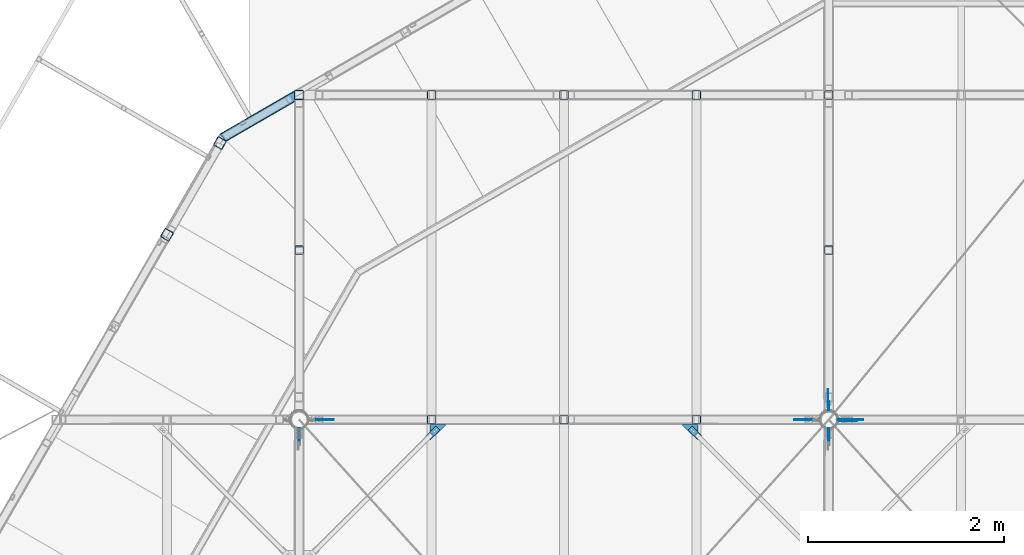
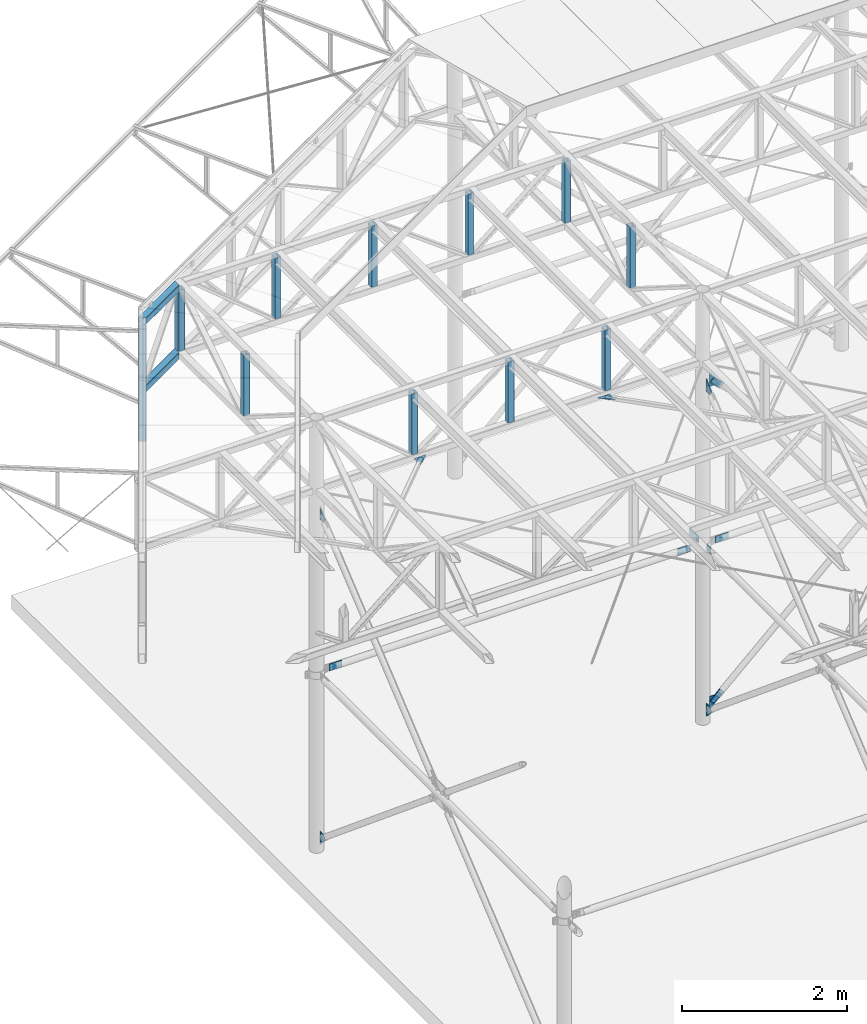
# One storey, part 87 of 132: 38 discrete accessories, 18 elements without a shape of their own.
"""IFC2X3 building model written with IfcOpenShell, lengths in millimetres."""

from ifc_helpers import new_model, si_unit, frame, origin_with_axes, origin_2d_with_axis, place, context, subcontext, project, spatial, polyline, rectangle, hollow_rectangle, outline, extrude, boolean, clip, halfspace, material, type_object, element, aggregate, save


model = new_model("IFC2X3")

# Units and contexts
model_context = context("Model", 3, precision=1e-05, world=origin_with_axes())
body_context = subcontext(model_context, "Body", "Model", "MODEL_VIEW")
ifc_project = project(units=[si_unit("LENGTHUNIT", "METRE", prefix="MILLI"), si_unit("AREAUNIT", "SQUARE_METRE"), si_unit("VOLUMEUNIT", "CUBIC_METRE"), si_unit("MASSUNIT", "GRAM", prefix="KILO"), si_unit("TIMEUNIT", "SECOND"), si_unit("PLANEANGLEUNIT", "RADIAN"), si_unit("SOLIDANGLEUNIT", "STERADIAN"), si_unit("THERMODYNAMICTEMPERATUREUNIT", "DEGREE_CELSIUS"), si_unit("LUMINOUSINTENSITYUNIT", "LUMEN")], contexts=[model_context])

# Site, building, storey
site_placement = place(None, origin_with_axes())
site = spatial("IfcSite", under=ifc_project, at=site_placement, Name="Budowa", CompositionType="ELEMENT")
building_placement = place(site_placement, origin_with_axes())
building = spatial("IfcBuilding", under=site, at=building_placement, Name="Undefined", CompositionType="ELEMENT")
storey_placement = place(building_placement, origin_with_axes())
storey = spatial("IfcBuildingStorey", under=building, at=storey_placement, Name="Undefined", CompositionType="ELEMENT", Elevation=0.0)

# Assembly, discrete accessories
assembly_1_placement = place(storey_placement, origin_with_axes())
assembly_1 = element("IfcElementAssembly", 1, at=assembly_1_placement, inside=storey, Name="Steel Assembly", AssemblyPlace="NOTDEFINED", PredefinedType="RIGID_FRAME")
ifc_material = material(Name="STEEL/S235")
discrete_accessory_type_1 = type_object("IfcDiscreteAccessoryType", Name="BLACHA")
discrete_accessory_1_placement = place(assembly_1_placement, frame((9513.8999996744, 17999.9990001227, 12610.0003356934), z_axis=(0.0, -1.0, 0.0), x_axis=(0.0, 0.0, -1.0)))
discrete_accessory_1 = element("IfcDiscreteAccessory", 2, at=discrete_accessory_1_placement, type_object=discrete_accessory_type_1, material=ifc_material, Name="BLACHA", ObjectType="BL8*126", context=body_context, shape_type="SweptSolid", body=[
    extrude(outline(polyline([(0.0, 0.0), (203.000061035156, 0.0), (203.000061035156, 73.001091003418), (144.99951171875, 126.000587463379), (0.0, 10.0), (0.0, 0.0)])), frame((0.0, 0.0, -4.0), z_axis=(0.0, 0.0, 1.0), x_axis=(1.0, 0.0, 0.0)), (0.0, 0.0, 1.0), 8.0),
])
discrete_accessory_2_placement = place(assembly_1_placement, frame((9513.89999968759, 17999.9990001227, 7825.00048828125), z_axis=(0.0, -1.0, 0.0), x_axis=(0.0, 0.0, -1.0)))
discrete_accessory_2 = element("IfcDiscreteAccessory", 3, at=discrete_accessory_2_placement, type_object=discrete_accessory_type_1, material=ifc_material, Name="BLACHA", ObjectType="BL8*126", context=body_context, shape_type="SweptSolid", body=[
    extrude(outline(polyline([(0.0, 0.0), (203.000061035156, 0.0), (203.000061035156, 10.0), (57.9996109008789, 126.000587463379), (-9.02218744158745e-10, 73.001091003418), (0.0, 0.0)])), frame((0.0, 0.0, -4.0), z_axis=(0.0, 0.0, 1.0), x_axis=(1.0, 0.0, 0.0)), (0.0, 0.0, 1.0), 8.0),
])

# Assembly, discrete accessory
assembly_2_placement = place(storey_placement, origin_with_axes())
assembly_2 = element("IfcElementAssembly", 4, at=assembly_2_placement, inside=storey, Name="Steel Assembly", AssemblyPlace="NOTDEFINED", PredefinedType="RIGID_FRAME")
discrete_accessory_3_placement = place(assembly_2_placement, frame((9547.31003908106, 17989.9999976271, 7734.82673924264), z_axis=(0.67855182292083, 0.0, -0.734552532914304), x_axis=(0.734552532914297, 0.0, 0.678551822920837)))
discrete_accessory_3 = element("IfcDiscreteAccessory", 5, at=discrete_accessory_3_placement, type_object=discrete_accessory_type_1, material=ifc_material, Name="BLACHA", ObjectType="BL8*86", context=body_context, shape_type="CSG", body=[
    boolean("DIFFERENCE", boolean("DIFFERENCE", extrude(rectangle(XDim=8.0, YDim=86.0, at=origin_2d_with_axis()), frame((190.000000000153, -3.63797880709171e-12, 3.30513394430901e-13), z_axis=(-1.0, 0.0, 0.0), x_axis=(0.0, -1.0, 0.0)), (0.0, 0.0, 1.0), 190.0), extrude(outline(polyline([(0.0, 0.0), (20.0000000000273, -3.63797880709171e-12), (5.45696821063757e-12, 20.0000000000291), (0.0, 0.0)])), frame((-1.81898940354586e-12, 6.49999757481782, 42.9999999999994), z_axis=(0.0, -1.0, 0.0), x_axis=(0.0, 0.0, -1.0)), (0.0, 0.0, 1.0), 13.0)), extrude(outline(polyline([(0.0, 0.0), (20.0000000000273, -3.63797880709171e-12), (5.45696821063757e-12, 20.0000000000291), (0.0, 0.0)])), frame((-1.81898940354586e-12, -6.50000242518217, -42.9999999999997), z_axis=(0.0, 1.0, 0.0), x_axis=(0.0, 0.0, 1.0)), (0.0, 0.0, 1.0), 13.0)),
])
aggregate(assembly_2, [discrete_accessory_3])

assembly_3_placement = place(storey_placement, origin_with_axes())
assembly_3 = element("IfcElementAssembly", 6, at=assembly_3_placement, inside=storey, Name="Steel Assembly", AssemblyPlace="NOTDEFINED", PredefinedType="RIGID_FRAME")
discrete_accessory_4_placement = place(assembly_3_placement, frame((9547.31003885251, 17989.9999975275, 12497.1740173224), z_axis=(-0.67855182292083, 0.0, -0.734552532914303), x_axis=(0.734552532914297, 0.0, -0.678551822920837)))
discrete_accessory_4 = element("IfcDiscreteAccessory", 7, at=discrete_accessory_4_placement, type_object=discrete_accessory_type_1, material=ifc_material, Name="BLACHA", ObjectType="BL8*86", context=body_context, shape_type="CSG", body=[
    boolean("DIFFERENCE", boolean("DIFFERENCE", extrude(rectangle(XDim=8.0, YDim=86.0, at=origin_2d_with_axis()), frame((190.000000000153, -3.63797880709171e-12, 3.30513394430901e-13), z_axis=(-1.0, 0.0, 0.0), x_axis=(0.0, -1.0, 0.0)), (0.0, 0.0, 1.0), 190.0), extrude(outline(polyline([(0.0, 0.0), (20.0000000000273, -3.63797880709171e-12), (5.45696821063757e-12, 20.0000000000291), (0.0, 0.0)])), frame((-1.81898940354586e-12, 6.49999757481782, 42.9999999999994), z_axis=(0.0, -1.0, 0.0), x_axis=(0.0, 0.0, -1.0)), (0.0, 0.0, 1.0), 13.0)), extrude(outline(polyline([(0.0, 0.0), (20.0000000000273, -3.63797880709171e-12), (5.45696821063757e-12, 20.0000000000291), (0.0, 0.0)])), frame((-1.81898940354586e-12, -6.50000242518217, -42.9999999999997), z_axis=(0.0, 1.0, 0.0), x_axis=(0.0, 0.0, 1.0)), (0.0, 0.0, 1.0), 13.0)),
])
aggregate(assembly_3, [discrete_accessory_4])

assembly_4_placement = place(storey_placement, origin_with_axes())
assembly_4 = element("IfcElementAssembly", 8, at=assembly_4_placement, inside=storey, Name="Steel Assembly", AssemblyPlace="NOTDEFINED", PredefinedType="RIGID_FRAME")
discrete_accessory_5_placement = place(assembly_4_placement, frame((9417.00000277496, 18127.9079054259, 10116.0003779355), z_axis=(1.0, 0.0, 0.0), x_axis=(0.0, 1.0, 0.0)))
discrete_accessory_5 = element("IfcDiscreteAccessory", 9, at=discrete_accessory_5_placement, type_object=discrete_accessory_type_1, material=ifc_material, Name="BLACHA", ObjectType="BL8*100", context=body_context, shape_type="SweptSolid", body=[
    extrude(outline(polyline([(0.0, -50.0), (0.0, 50.0), (180.0, 50.0), (180.0, -50.0), (0.0, -50.0)])), frame((0.0, 0.0, -4.0), z_axis=(0.0, 0.0, 1.0), x_axis=(1.0, 0.0, 0.0)), (0.0, 0.0, 1.0), 8.0),
])
aggregate(assembly_4, [discrete_accessory_5])

assembly_5_placement = place(storey_placement, origin_with_axes())
assembly_5 = element("IfcElementAssembly", 10, at=assembly_5_placement, inside=storey, Name="Steel Assembly", AssemblyPlace="NOTDEFINED", PredefinedType="RIGID_FRAME")
discrete_accessory_6_placement = place(assembly_5_placement, frame((9425.00000277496, 18097.995643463, 10066.0003796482), z_axis=(-1.0, 0.0, 0.0), x_axis=(0.0, 0.0, 1.0)))
discrete_accessory_6 = element("IfcDiscreteAccessory", 11, at=discrete_accessory_6_placement, type_object=discrete_accessory_type_1, material=ifc_material, Name="BLACHA", ObjectType="BL8*90", context=body_context, shape_type="SweptSolid", body=[
    extrude(outline(polyline([(0.0, 0.0), (100.0, 0.0), (100.0, 89.9122619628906), (0.0, 89.9122619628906), (0.0, 0.0)])), frame((0.0, 0.0, -4.0), z_axis=(0.0, 0.0, 1.0), x_axis=(1.0, 0.0, 0.0)), (0.0, 0.0, 1.0), 8.0),
])
aggregate(assembly_5, [discrete_accessory_6])

# Discrete accessory
discrete_accessory_7_placement = place(assembly_1_placement, frame((9425.00000235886, 17911.1000000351, 7622.99987030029), z_axis=(1.0, 0.0, 0.0), x_axis=(0.0, 0.0, 1.0)))
discrete_accessory_7 = element("IfcDiscreteAccessory", 12, at=discrete_accessory_7_placement, type_object=discrete_accessory_type_1, material=ifc_material, Name="BLACHA", ObjectType="BL8*126", context=body_context, shape_type="SweptSolid", body=[
    extrude(outline(polyline([(0.0, 0.0), (188.000686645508, 0.0), (188.000686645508, 75.9982376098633), (127.00080871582, 125.999382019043), (0.0, 10.0), (0.0, 0.0)])), frame((0.0, 0.0, -4.0), z_axis=(0.0, 0.0, 1.0), x_axis=(1.0, 0.0, 0.0)), (0.0, 0.0, 1.0), 8.0),
])

discrete_accessory_8_placement = place(assembly_1_placement, frame((9425.00000235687, 17911.1000000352, 12421.0002059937), z_axis=(1.0, 0.0, 0.0), x_axis=(0.0, 0.0, 1.0)))
discrete_accessory_8 = element("IfcDiscreteAccessory", 13, at=discrete_accessory_8_placement, type_object=discrete_accessory_type_1, material=ifc_material, Name="BLACHA", ObjectType="BL8*126", context=body_context, shape_type="SweptSolid", body=[
    extrude(outline(polyline([(0.0, 0.0), (187.999725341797, 0.0), (187.999725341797, 10.0), (60.999870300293, 125.999382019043), (5.18411980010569e-09, 75.9982376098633), (0.0, 0.0)])), frame((0.0, 0.0, -4.0), z_axis=(0.0, 0.0, 1.0), x_axis=(1.0, 0.0, 0.0)), (0.0, 0.0, 1.0), 8.0),
])

# Assembly, discrete accessories
assembly_6_placement = place(storey_placement, origin_with_axes())
assembly_6 = element("IfcElementAssembly", 14, at=assembly_6_placement, inside=storey, Name="Steel Assembly", AssemblyPlace="NOTDEFINED", PredefinedType="RIGID_FRAME")
discrete_accessory_9_placement = place(assembly_6_placement, frame((4198.13669406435, 17997.9999994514, 10116.0003779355), z_axis=(0.0, -1.0, 0.0), x_axis=(1.0, 0.0, 0.0)))
discrete_accessory_9 = element("IfcDiscreteAccessory", 15, at=discrete_accessory_9_placement, type_object=discrete_accessory_type_1, material=ifc_material, Name="BLACHA", ObjectType="BL8*100", context=body_context, shape_type="SweptSolid", body=[
    extrude(outline(polyline([(0.0, -50.0), (0.0, 50.0), (180.0, 50.0), (180.0, -50.0), (0.0, -50.0)])), frame((0.0, 0.0, -4.0), z_axis=(0.0, 0.0, 1.0), x_axis=(1.0, 0.0, 0.0)), (0.0, 0.0, 1.0), 8.0),
])
discrete_accessory_10_placement = place(assembly_6_placement, frame((9251.86330560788, 17997.9999994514, 10116.0003779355), z_axis=(0.0, 1.0, 0.0), x_axis=(-1.0, 0.0, 0.0)))
discrete_accessory_10 = element("IfcDiscreteAccessory", 16, at=discrete_accessory_10_placement, type_object=discrete_accessory_type_1, material=ifc_material, Name="BLACHA", ObjectType="BL8*100", context=body_context, shape_type="SweptSolid", body=[
    extrude(outline(polyline([(180.0, -50.0), (0.0, -50.0), (0.0, 50.0), (180.0, 50.0), (180.0, -50.0)])), frame((0.0, 0.0, -4.0), z_axis=(0.0, 0.0, 1.0), x_axis=(1.0, 0.0, 0.0)), (0.0, 0.0, 1.0), 8.0),
])
aggregate(assembly_6, [discrete_accessory_9, discrete_accessory_10])

# Assembly, discrete accessory
assembly_7_placement = place(storey_placement, origin_with_axes())
assembly_7 = element("IfcElementAssembly", 17, at=assembly_7_placement, inside=storey, Name="Steel Assembly", AssemblyPlace="NOTDEFINED", PredefinedType="RIGID_FRAME")
discrete_accessory_11_placement = place(assembly_7_placement, frame((9425.00000249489, 17902.0043566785, 10166.0003799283), z_axis=(-1.0, 0.0, 0.0), x_axis=(0.0, 0.0, -1.0)))
discrete_accessory_11 = element("IfcDiscreteAccessory", 18, at=discrete_accessory_11_placement, type_object=discrete_accessory_type_1, material=ifc_material, Name="BLACHA", ObjectType="BL8*90", context=body_context, shape_type="SweptSolid", body=[
    extrude(outline(polyline([(0.0, 0.0), (100.0, 0.0), (100.0, 89.9122619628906), (0.0, 89.9122619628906), (0.0, 0.0)])), frame((0.0, 0.0, -4.0), z_axis=(0.0, 0.0, 1.0), x_axis=(1.0, 0.0, 0.0)), (0.0, 0.0, 1.0), 8.0),
])
aggregate(assembly_7, [discrete_accessory_11])

assembly_8_placement = place(storey_placement, origin_with_axes())
assembly_8 = element("IfcElementAssembly", 19, at=assembly_8_placement, inside=storey, Name="Steel Assembly", AssemblyPlace="NOTDEFINED", PredefinedType="RIGID_FRAME")
discrete_accessory_12_placement = place(assembly_8_placement, frame((9598.1366940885, 17997.9999994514, 10116.0003779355), z_axis=(0.0, -1.0, 0.0), x_axis=(1.0, 0.0, 0.0)))
discrete_accessory_12 = element("IfcDiscreteAccessory", 20, at=discrete_accessory_12_placement, type_object=discrete_accessory_type_1, material=ifc_material, Name="BLACHA", ObjectType="BL8*100", context=body_context, shape_type="SweptSolid", body=[
    extrude(outline(polyline([(0.0, -50.0), (0.0, 50.0), (180.0, 50.0), (180.0, -50.0), (0.0, -50.0)])), frame((0.0, 0.0, -4.0), z_axis=(0.0, 0.0, 1.0), x_axis=(1.0, 0.0, 0.0)), (0.0, 0.0, 1.0), 8.0),
])
aggregate(assembly_8, [discrete_accessory_12])

# Assembly, discrete accessories
assembly_9_placement = place(storey_placement, origin_with_axes())
assembly_9 = element("IfcElementAssembly", 21, at=assembly_9_placement, inside=storey, Name="Steel Assembly", AssemblyPlace="NOTDEFINED", PredefinedType="RIGID_FRAME")
discrete_accessory_13_placement = place(assembly_9_placement, frame((4025.00000001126, 17911.1000000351, 7645.25482469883), z_axis=(1.0, 0.0, 0.0), x_axis=(0.0, 0.0, 1.0)))
discrete_accessory_13 = element("IfcDiscreteAccessory", 22, at=discrete_accessory_13_placement, type_object=discrete_accessory_type_1, material=ifc_material, Name="BLACHA", ObjectType="BL8*127", context=body_context, shape_type="SweptSolid", body=[
    extrude(outline(polyline([(0.0, 0.0), (165.901336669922, 0.0), (165.901351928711, 76.0204010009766), (105.144889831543, 126.514472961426), (0.0, 10.0), (0.0, 0.0)])), frame((0.0, 0.0, -4.0), z_axis=(0.0, 0.0, 1.0), x_axis=(1.0, 0.0, 0.0)), (0.0, 0.0, 1.0), 8.0),
])
discrete_accessory_14_placement = place(assembly_9_placement, frame((4025.00000000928, 17911.1000000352, 12420.8436244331), z_axis=(1.0, 0.0, 0.0), x_axis=(0.0, 0.0, 1.0)))
discrete_accessory_14 = element("IfcDiscreteAccessory", 23, at=discrete_accessory_14_placement, type_object=discrete_accessory_type_1, material=ifc_material, Name="BLACHA", ObjectType="BL8*127", context=body_context, shape_type="SweptSolid", body=[
    extrude(outline(polyline([(0.0, 0.0), (165.901336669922, 0.0), (165.901336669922, 10.0), (60.7564697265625, 126.514472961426), (0.0, 76.0204086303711), (0.0, 0.0)])), frame((0.0, 0.0, -4.0), z_axis=(0.0, 0.0, 1.0), x_axis=(1.0, 0.0, 0.0)), (0.0, 0.0, 1.0), 8.0),
])
aggregate(assembly_9, [discrete_accessory_13, discrete_accessory_14])

# Discrete accessory
discrete_accessory_15_placement = place(assembly_1_placement, frame((9425.00000003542, 17911.1000000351, 7645.25482469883), z_axis=(1.0, 0.0, 0.0), x_axis=(0.0, 0.0, 1.0)))
discrete_accessory_15 = element("IfcDiscreteAccessory", 24, at=discrete_accessory_15_placement, type_object=discrete_accessory_type_1, material=ifc_material, Name="BLACHA", ObjectType="BL8*127", context=body_context, shape_type="SweptSolid", body=[
    extrude(outline(polyline([(0.0, 0.0), (165.901336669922, 0.0), (165.901351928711, 76.0204010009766), (105.144889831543, 126.514472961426), (0.0, 10.0), (0.0, 0.0)])), frame((0.0, 0.0, -4.0), z_axis=(0.0, 0.0, 1.0), x_axis=(1.0, 0.0, 0.0)), (0.0, 0.0, 1.0), 8.0),
])

discrete_accessory_16_placement = place(assembly_1_placement, frame((9425.00000003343, 17911.1000000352, 12420.8436244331), z_axis=(1.0, 0.0, 0.0), x_axis=(0.0, 0.0, 1.0)))
discrete_accessory_16 = element("IfcDiscreteAccessory", 25, at=discrete_accessory_16_placement, type_object=discrete_accessory_type_1, material=ifc_material, Name="BLACHA", ObjectType="BL8*127", context=body_context, shape_type="SweptSolid", body=[
    extrude(outline(polyline([(0.0, 0.0), (165.901336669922, 0.0), (165.901336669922, 10.0), (60.7564697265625, 126.514472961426), (0.0, 76.0204086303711), (0.0, 0.0)])), frame((0.0, 0.0, -4.0), z_axis=(0.0, 0.0, 1.0), x_axis=(1.0, 0.0, 0.0)), (0.0, 0.0, 1.0), 8.0),
])

# Assembly, discrete accessory
assembly_10_placement = place(storey_placement, origin_with_axes())
assembly_10 = element("IfcElementAssembly", 26, at=assembly_10_placement, inside=storey, Name="Steel Assembly", AssemblyPlace="NOTDEFINED", PredefinedType="RIGID_FRAME")
discrete_accessory_17_placement = place(assembly_10_placement, frame((9547.31003901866, 17991.9999976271, 7734.82673918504), z_axis=(0.67855182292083, 0.0, -0.734552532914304), x_axis=(0.734552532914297, 0.0, 0.678551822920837)))
discrete_accessory_17 = element("IfcDiscreteAccessory", 27, at=discrete_accessory_17_placement, type_object=discrete_accessory_type_1, material=ifc_material, Name="BLACHA", ObjectType="BL8*69", context=body_context, shape_type="SweptSolid", body=[
    extrude(rectangle(XDim=8.0, YDim=69.0, at=origin_2d_with_axis()), frame((149.999999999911, 0.0, 0.0), z_axis=(-1.0, 0.0, 0.0), x_axis=(0.0, -1.0, 0.0)), (0.0, 0.0, 1.0), 150.0),
])
aggregate(assembly_10, [discrete_accessory_17])

# Discrete accessory
discrete_accessory_18_placement = place(assembly_1_placement, frame((9513.89999962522, 17999.9999976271, 7824.91122862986), z_axis=(0.0, -1.0, 0.0), x_axis=(0.0, 0.0, -1.0)))
discrete_accessory_18 = element("IfcDiscreteAccessory", 28, at=discrete_accessory_18_placement, type_object=discrete_accessory_type_1, material=ifc_material, Name="BLACHA", ObjectType="BL8*126", context=body_context, shape_type="SweptSolid", body=[
    extrude(outline(polyline([(0.0, 0.0), (174.721649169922, 0.0), (174.721649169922, 10.0), (58.0296516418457, 126.322563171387), (0.0, 72.7169723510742), (0.0, 0.0)])), frame((0.0, 0.0, -4.0), z_axis=(0.0, 0.0, 1.0), x_axis=(1.0, 0.0, 0.0)), (0.0, 0.0, 1.0), 8.0),
])

# Assembly, discrete accessory
assembly_11_placement = place(storey_placement, origin_with_axes())
assembly_11 = element("IfcElementAssembly", 29, at=assembly_11_placement, inside=storey, Name="Steel Assembly", AssemblyPlace="NOTDEFINED", PredefinedType="RIGID_FRAME")
discrete_accessory_19_placement = place(assembly_11_placement, frame((9547.31003879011, 17991.9999975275, 12497.17401738), z_axis=(-0.67855182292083, 0.0, -0.734552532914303), x_axis=(0.734552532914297, 0.0, -0.678551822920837)))
discrete_accessory_19 = element("IfcDiscreteAccessory", 30, at=discrete_accessory_19_placement, type_object=discrete_accessory_type_1, material=ifc_material, Name="BLACHA", ObjectType="BL8*69", context=body_context, shape_type="SweptSolid", body=[
    extrude(rectangle(XDim=8.0, YDim=69.0, at=origin_2d_with_axis()), frame((149.999999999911, 0.0, 0.0), z_axis=(-1.0, 0.0, 0.0), x_axis=(0.0, -1.0, 0.0)), (0.0, 0.0, 1.0), 150.0),
])
aggregate(assembly_11, [discrete_accessory_19])

# Discrete accessory
discrete_accessory_20_placement = place(assembly_1_placement, frame((9513.89999961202, 17999.9999975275, 12581.8111792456), z_axis=(0.0, -1.0, 0.0), x_axis=(0.0, 0.0, -1.0)))
discrete_accessory_20 = element("IfcDiscreteAccessory", 31, at=discrete_accessory_20_placement, type_object=discrete_accessory_type_1, material=ifc_material, Name="BLACHA", ObjectType="BL8*126", context=body_context, shape_type="SweptSolid", body=[
    extrude(outline(polyline([(0.0, 0.0), (174.721649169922, 0.0), (174.721649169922, 72.7169723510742), (116.692001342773, 126.322563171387), (0.0, 10.0), (0.0, 0.0)])), frame((0.0, 0.0, -4.0), z_axis=(0.0, 0.0, 1.0), x_axis=(1.0, 0.0, 0.0)), (0.0, 0.0, 1.0), 8.0),
])

aggregate(assembly_1, [discrete_accessory_1, discrete_accessory_2, discrete_accessory_7, discrete_accessory_8, discrete_accessory_15, discrete_accessory_16, discrete_accessory_18, discrete_accessory_20])

# Assembly, discrete accessory
assembly_12_placement = place(storey_placement, origin_with_axes())
assembly_12 = element("IfcElementAssembly", 32, at=assembly_12_placement, inside=storey, Name="Steel Assembly", AssemblyPlace="NOTDEFINED", PredefinedType="RIGID_FRAME")
discrete_accessory_21_placement = place(assembly_12_placement, frame((5362.00504867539, 17794.5786419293, 12830.0), z_axis=(0.0, 0.0, 1.0), x_axis=(0.707106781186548, 0.707106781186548, 0.0)))
discrete_accessory_21 = element("IfcDiscreteAccessory", 33, at=discrete_accessory_21_placement, type_object=discrete_accessory_type_1, material=ifc_material, Name="BLACHA", ObjectType="BL6*60", context=body_context, shape_type="SweptSolid", body=[
    extrude(outline(polyline([(0.0, 0.0), (139.99999999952, -6.2755134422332e-10), (139.99999999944, 59.9999999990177), (0.0, 60.0), (-8.00355337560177e-11, 54.9999999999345), (49.9999999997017, 54.9999999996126), (49.9999999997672, 4.99999999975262), (-8.73114913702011e-11, 5.00000000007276), (0.0, 0.0)])), frame((0.0, 0.0, -3.0), z_axis=(0.0, 0.0, 1.0), x_axis=(1.0, 0.0, 0.0)), (0.0, 0.0, 1.0), 6.0),
])
aggregate(assembly_12, [discrete_accessory_21])

assembly_13_placement = place(storey_placement, origin_with_axes())
assembly_13 = element("IfcElementAssembly", 34, at=assembly_13_placement, inside=storey, Name="Steel Assembly", AssemblyPlace="NOTDEFINED", PredefinedType="RIGID_FRAME")
discrete_accessory_22_placement = place(assembly_13_placement, frame((5524.49747460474, 17950.000000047, 12824.0), z_axis=(0.0, 0.0, 1.0), x_axis=(-1.0, 0.0, 0.0)))
discrete_accessory_22 = element("IfcDiscreteAccessory", 35, at=discrete_accessory_22_placement, type_object=discrete_accessory_type_1, material=ifc_material, Name="BLACHA", ObjectType="BL6*117", context=body_context, shape_type="SweptSolid", body=[
    extrude(outline(polyline([(0.0, 0.0), (166.027954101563, 0.0), (166.027954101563, 67.0330123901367), (116.530487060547, 116.530487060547), (0.0, 0.0)])), frame((0.0, 0.0, -3.0), z_axis=(0.0, 0.0, 1.0), x_axis=(1.0, 0.0, 0.0)), (0.0, 0.0, 1.0), 6.0),
])

assembly_14_placement = place(storey_placement, origin_with_axes())
assembly_14 = element("IfcElementAssembly", 36, at=assembly_14_placement, inside=storey, Name="Steel Assembly", AssemblyPlace="NOTDEFINED", PredefinedType="RIGID_FRAME")
discrete_accessory_23_placement = place(assembly_14_placement, frame((8130.42135808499, 17837.0050487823, 12830.0), z_axis=(0.0, 0.0, 1.0), x_axis=(-0.707106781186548, 0.707106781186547, 0.0)))
discrete_accessory_23 = element("IfcDiscreteAccessory", 37, at=discrete_accessory_23_placement, type_object=discrete_accessory_type_1, material=ifc_material, Name="BLACHA", ObjectType="BL6*60", context=body_context, shape_type="SweptSolid", body=[
    extrude(outline(polyline([(0.0, 0.0), (139.99999999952, -6.2755134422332e-10), (139.99999999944, 59.9999999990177), (0.0, 60.0), (-8.00355337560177e-11, 54.9999999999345), (49.9999999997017, 54.9999999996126), (49.9999999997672, 4.99999999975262), (-8.73114913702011e-11, 5.00000000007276), (0.0, 0.0)])), frame((0.0, 0.0, -3.0), z_axis=(0.0, 0.0, 1.0), x_axis=(1.0, 0.0, 0.0)), (0.0, 0.0, 1.0), 6.0),
])
aggregate(assembly_14, [discrete_accessory_23])

# Discrete accessory
discrete_accessory_24_placement = place(assembly_13_placement, frame((8091.53048321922, 17950.000000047, 12824.0), z_axis=(0.0, 0.0, 1.0), x_axis=(-1.0, 0.0, 0.0)))
discrete_accessory_24 = element("IfcDiscreteAccessory", 38, at=discrete_accessory_24_placement, type_object=discrete_accessory_type_1, material=ifc_material, Name="BLACHA", ObjectType="BL6*117", context=body_context, shape_type="SweptSolid", body=[
    extrude(outline(polyline([(0.0, 0.0), (166.027954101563, 0.0), (49.4974746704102, 116.530487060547), (0.0, 67.0330123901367), (0.0, 0.0)])), frame((0.0, 0.0, -3.0), z_axis=(0.0, 0.0, 1.0), x_axis=(1.0, 0.0, 0.0)), (0.0, 0.0, 1.0), 6.0),
])

# Assembly, discrete accessories
assembly_15_placement = place(storey_placement, origin_with_axes())
assembly_15 = element("IfcElementAssembly", 39, at=assembly_15_placement, inside=storey, Name="Steel Assembly", AssemblyPlace="NOTDEFINED", PredefinedType="RIGID_FRAME")
discrete_accessory_type_2 = type_object("IfcDiscreteAccessoryType", Name="BEAM")
discrete_accessory_25_placement = place(assembly_15_placement, frame((2677.18336835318, 19885.9021782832, 12879.9999999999), z_axis=(0.0, 0.0, 1.0), x_axis=(-0.86602545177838, 0.499999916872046, 0.0)))
discrete_accessory_25 = element("IfcDiscreteAccessory", 40, at=discrete_accessory_25_placement, type_object=discrete_accessory_type_2, material=ifc_material, Name="BEAM", ObjectType="SHS100*4", context=body_context, shape_type="Clipping", body=[
    clip(clip(extrude(hollow_rectangle(XDim=100.0, YDim=100.0, WallThickness=4.0, InnerFilletRadius=4.0, OuterFilletRadius=8.0, at=origin_2d_with_axis()), frame((0.0, 0.0, 900.0), z_axis=(0.0, 0.0, -1.0), x_axis=(0.0, 1.0, 0.0)), (0.0, 0.0, 1.0), 900.0), halfspace(frame((1000.0, 0.0, 900.0), z_axis=(0.0, 0.0, -1.0), x_axis=(0.0, 1.0, 0.0)), True)), halfspace(frame((1000.0, 0.0, 0.0), z_axis=(0.0, 0.0, 1.0), x_axis=(0.0, -1.0, 0.0)), True)),
])
discrete_accessory_26_placement = place(assembly_15_placement, frame((3217.18342312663, 20821.2095827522, 12879.9999999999), z_axis=(0.0, 0.0, 1.0), x_axis=(-0.86602545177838, 0.499999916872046, 0.0)))
discrete_accessory_26 = element("IfcDiscreteAccessory", 41, at=discrete_accessory_26_placement, type_object=discrete_accessory_type_2, material=ifc_material, Name="BEAM", ObjectType="SHS100*4", context=body_context, shape_type="Clipping", body=[
    clip(clip(extrude(hollow_rectangle(XDim=100.0, YDim=100.0, WallThickness=4.0, InnerFilletRadius=4.0, OuterFilletRadius=8.0, at=origin_2d_with_axis()), frame((0.0, 0.0, 900.0), z_axis=(0.0, 0.0, -1.0), x_axis=(0.0, 1.0, 0.0)), (0.0, 0.0, 1.0), 900.0), halfspace(frame((1000.0, 0.0, 900.0), z_axis=(0.0, 0.0, -1.0), x_axis=(0.0, 1.0, 0.0)), True)), halfspace(frame((1000.0, 0.0, 0.0), z_axis=(0.0, 0.0, 1.0), x_axis=(0.0, -1.0, 0.0)), True)),
])
discrete_accessory_27_placement = place(assembly_15_placement, frame((4003.01280467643, 21311.4765029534, 12830.0), z_axis=(0.0, 0.0, 1.0), x_axis=(-0.866042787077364, -0.499969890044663, 0.0)))
discrete_accessory_27 = element("IfcDiscreteAccessory", 42, at=discrete_accessory_27_placement, type_object=discrete_accessory_type_2, material=ifc_material, Name="BEAM", ObjectType="SHS100*5", context=body_context, shape_type="Clipping", body=[
    clip(clip(extrude(hollow_rectangle(XDim=100.0, YDim=100.0, WallThickness=5.0, InnerFilletRadius=5.0, OuterFilletRadius=10.0, at=origin_2d_with_axis()), frame((950.430426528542, 0.0, 0.0), z_axis=(-1.0, 0.0, 0.0), x_axis=(0.0, -1.0, 0.0)), (0.0, 0.0, 1.0), 950.43), halfspace(frame((3.48055581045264, -49.9999999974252, -50.0), z_axis=(-0.866042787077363, 0.499969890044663, 0.0), x_axis=(0.499969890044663, 0.866042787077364, 0.0)), False)), halfspace(frame((884.175439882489, -50.0000000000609, 0.0), z_axis=(0.965921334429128, 0.258835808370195, 0.0), x_axis=(0.0, 0.0, 1.0)), False)),
])
discrete_accessory_28_placement = place(assembly_15_placement, frame((4003.01280467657, 21311.4765029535, 13830.0), z_axis=(0.0, 0.0, 1.0), x_axis=(-0.866042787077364, -0.499969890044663, 0.0)))
discrete_accessory_28 = element("IfcDiscreteAccessory", 43, at=discrete_accessory_28_placement, type_object=discrete_accessory_type_2, material=ifc_material, Name="BEAM", ObjectType="SHS100*5", context=body_context, shape_type="Clipping", body=[
    clip(clip(extrude(hollow_rectangle(XDim=100.0, YDim=100.0, WallThickness=5.0, InnerFilletRadius=5.0, OuterFilletRadius=10.0, at=origin_2d_with_axis()), frame((950.430426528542, 0.0, 0.0), z_axis=(-1.0, 0.0, 0.0), x_axis=(0.0, -1.0, 0.0)), (0.0, 0.0, 1.0), 950.43), halfspace(frame((3.48055581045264, -49.9999999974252, -50.0), z_axis=(-0.866042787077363, 0.499969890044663, 0.0), x_axis=(0.499969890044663, 0.866042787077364, 0.0)), False)), halfspace(frame((884.175439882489, -50.0000000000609, 0.0), z_axis=(0.965921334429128, 0.258835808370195, 0.0), x_axis=(0.0, 0.0, 1.0)), False)),
])
aggregate(assembly_15, [discrete_accessory_25, discrete_accessory_26, discrete_accessory_27, discrete_accessory_28])

assembly_16_placement = place(storey_placement, origin_with_axes())
assembly_16 = element("IfcElementAssembly", 44, at=assembly_16_placement, inside=storey, Name="Steel Assembly", AssemblyPlace="NOTDEFINED", PredefinedType="RIGID_FRAME")
discrete_accessory_29_placement = place(assembly_16_placement, frame((8074.99999993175, 21310.000000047, 13780.0), z_axis=(0.0, -1.0, 0.0), x_axis=(0.0, 0.0, -1.0)))
discrete_accessory_29 = element("IfcDiscreteAccessory", 45, at=discrete_accessory_29_placement, type_object=discrete_accessory_type_2, material=ifc_material, Name="BEAM", ObjectType="SHS90*6", context=body_context, shape_type="Clipping", body=[
    clip(clip(extrude(hollow_rectangle(XDim=90.0, YDim=90.0, WallThickness=6.0, InnerFilletRadius=6.0, OuterFilletRadius=12.0, at=origin_2d_with_axis()), frame((900.0, 0.0, 0.0), z_axis=(-1.0, 0.0, 0.0), x_axis=(0.0, -1.0, 0.0)), (0.0, 0.0, 1.0), 900.0), halfspace(frame((900.0, 0.0, 1000.0), z_axis=(-1.0, 0.0, 0.0), x_axis=(0.0, -1.0, 0.0)), True)), halfspace(frame((0.0, 0.0, 1000.0), z_axis=(1.0, 0.0, 0.0), x_axis=(0.0, 1.0, 0.0)), True)),
])
discrete_accessory_30_placement = place(assembly_16_placement, frame((5374.99999993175, 21310.000000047, 13780.0), z_axis=(0.0, -1.0, 0.0), x_axis=(0.0, 0.0, -1.0)))
discrete_accessory_30 = element("IfcDiscreteAccessory", 46, at=discrete_accessory_30_placement, type_object=discrete_accessory_type_2, material=ifc_material, Name="BEAM", ObjectType="SHS90*6", context=body_context, shape_type="Clipping", body=[
    clip(clip(extrude(hollow_rectangle(XDim=90.0, YDim=90.0, WallThickness=6.0, InnerFilletRadius=6.0, OuterFilletRadius=12.0, at=origin_2d_with_axis()), frame((900.0, 0.0, 0.0), z_axis=(-1.0, 0.0, 0.0), x_axis=(0.0, -1.0, 0.0)), (0.0, 0.0, 1.0), 900.0), halfspace(frame((900.0, 0.0, 1000.0), z_axis=(-1.0, 0.0, 0.0), x_axis=(0.0, -1.0, 0.0)), True)), halfspace(frame((0.0, 0.0, 1000.0), z_axis=(1.0, 0.0, 0.0), x_axis=(0.0, 1.0, 0.0)), True)),
])
discrete_accessory_31_placement = place(assembly_16_placement, frame((6724.99999993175, 21310.000000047, 13780.0), z_axis=(0.0, -1.0, 0.0), x_axis=(0.0, 0.0, -1.0)))
discrete_accessory_31 = element("IfcDiscreteAccessory", 47, at=discrete_accessory_31_placement, type_object=discrete_accessory_type_2, material=ifc_material, Name="BEAM", ObjectType="SHS90*6", context=body_context, shape_type="Clipping", body=[
    clip(clip(extrude(hollow_rectangle(XDim=90.0, YDim=90.0, WallThickness=6.0, InnerFilletRadius=6.0, OuterFilletRadius=12.0, at=origin_2d_with_axis()), frame((900.0, 0.0, 0.0), z_axis=(-1.0, 0.0, 0.0), x_axis=(0.0, -1.0, 0.0)), (0.0, 0.0, 1.0), 900.0), halfspace(frame((900.0, 0.0, 1000.0), z_axis=(-1.0, 0.0, 0.0), x_axis=(0.0, -1.0, 0.0)), True)), halfspace(frame((0.0, 0.0, 1000.0), z_axis=(1.0, 0.0, 0.0), x_axis=(0.0, 1.0, 0.0)), True)),
])
aggregate(assembly_16, [discrete_accessory_29, discrete_accessory_30, discrete_accessory_31])

assembly_17_placement = place(storey_placement, origin_with_axes())
assembly_17 = element("IfcElementAssembly", 48, at=assembly_17_placement, inside=storey, Name="Steel Assembly", AssemblyPlace="NOTDEFINED", PredefinedType="RIGID_FRAME")
discrete_accessory_32_placement = place(assembly_17_placement, frame((4024.99999991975, 19728.9000000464, 13780.0000000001), z_axis=(1.0, 0.0, 0.0), x_axis=(0.0, 0.0, -1.0)))
discrete_accessory_32 = element("IfcDiscreteAccessory", 49, at=discrete_accessory_32_placement, type_object=discrete_accessory_type_2, material=ifc_material, Name="BEAM", ObjectType="SHS90*6", context=body_context, shape_type="Clipping", body=[
    clip(clip(extrude(hollow_rectangle(XDim=90.0, YDim=90.0, WallThickness=6.0, InnerFilletRadius=6.0, OuterFilletRadius=12.0, at=origin_2d_with_axis()), frame((900.0, 0.0, 0.0), z_axis=(-1.0, 0.0, 0.0), x_axis=(0.0, -1.0, 0.0)), (0.0, 0.0, 1.0), 900.0), halfspace(frame((900.0, 0.0, 1000.0), z_axis=(-1.0, 0.0, 0.0), x_axis=(0.0, -1.0, 0.0)), True)), halfspace(frame((0.0, 0.0, 1000.0), z_axis=(1.0, 0.0, 0.0), x_axis=(0.0, 1.0, 0.0)), True)),
])
discrete_accessory_33_placement = place(assembly_17_placement, frame((4024.99999991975, 21310.0000000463, 13780.0000000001), z_axis=(1.0, 0.0, 0.0), x_axis=(0.0, 0.0, -1.0)))
discrete_accessory_33 = element("IfcDiscreteAccessory", 50, at=discrete_accessory_33_placement, type_object=discrete_accessory_type_2, material=ifc_material, Name="BEAM", ObjectType="SHS100*8", context=body_context, shape_type="Clipping", body=[
    clip(clip(extrude(hollow_rectangle(XDim=100.0, YDim=100.0, WallThickness=8.0, InnerFilletRadius=8.0, OuterFilletRadius=16.0, at=origin_2d_with_axis()), frame((900.0, 0.0, 0.0), z_axis=(-1.0, 0.0, 0.0), x_axis=(0.0, -1.0, 0.0)), (0.0, 0.0, 1.0), 900.0), halfspace(frame((900.0, 0.0, 1000.0), z_axis=(-1.0, 0.0, 0.0), x_axis=(0.0, -1.0, 0.0)), True)), halfspace(frame((0.0, 0.0, 1000.0), z_axis=(1.0, 0.0, 0.0), x_axis=(0.0, 1.0, 0.0)), True)),
])
aggregate(assembly_17, [discrete_accessory_32, discrete_accessory_33])

assembly_18_placement = place(storey_placement, origin_with_axes())
assembly_18 = element("IfcElementAssembly", 51, at=assembly_18_placement, inside=storey, Name="Steel Assembly", AssemblyPlace="NOTDEFINED", PredefinedType="RIGID_FRAME")
discrete_accessory_34_placement = place(assembly_18_placement, frame((9424.99999994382, 19729.0000000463, 12880.0), z_axis=(0.0, 0.0, 1.0), x_axis=(-1.0, 0.0, 0.0)))
discrete_accessory_34 = element("IfcDiscreteAccessory", 52, at=discrete_accessory_34_placement, type_object=discrete_accessory_type_2, material=ifc_material, Name="BEAM", ObjectType="SHS90*6", context=body_context, shape_type="Clipping", body=[
    clip(clip(extrude(hollow_rectangle(XDim=90.0, YDim=90.0, WallThickness=6.0, InnerFilletRadius=6.0, OuterFilletRadius=12.0, at=origin_2d_with_axis()), frame((0.0, 0.0, 900.0), z_axis=(0.0, 0.0, -1.0), x_axis=(0.0, 1.0, 0.0)), (0.0, 0.0, 1.0), 900.0), halfspace(frame((1000.0, 0.0, 900.0), z_axis=(0.0, 0.0, -1.0), x_axis=(0.0, 1.0, 0.0)), True)), halfspace(frame((1000.0, 0.0, 0.0), z_axis=(0.0, 0.0, 1.0), x_axis=(0.0, -1.0, 0.0)), True)),
])
discrete_accessory_35_placement = place(assembly_18_placement, frame((9424.99999994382, 21310.0000000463, 12880.0), z_axis=(0.0, 0.0, 1.0), x_axis=(-1.0, 0.0, 0.0)))
discrete_accessory_35 = element("IfcDiscreteAccessory", 53, at=discrete_accessory_35_placement, type_object=discrete_accessory_type_2, material=ifc_material, Name="BEAM", ObjectType="SHS90*6", context=body_context, shape_type="Clipping", body=[
    clip(clip(extrude(hollow_rectangle(XDim=90.0, YDim=90.0, WallThickness=6.0, InnerFilletRadius=6.0, OuterFilletRadius=12.0, at=origin_2d_with_axis()), frame((0.0, 0.0, 900.0), z_axis=(0.0, 0.0, -1.0), x_axis=(0.0, 1.0, 0.0)), (0.0, 0.0, 1.0), 900.0), halfspace(frame((1000.0, 0.0, 900.0), z_axis=(0.0, 0.0, -1.0), x_axis=(0.0, 1.0, 0.0)), True)), halfspace(frame((1000.0, 0.0, 0.0), z_axis=(0.0, 0.0, 1.0), x_axis=(0.0, -1.0, 0.0)), True)),
])
aggregate(assembly_18, [discrete_accessory_34, discrete_accessory_35])

# Discrete accessory
discrete_accessory_36_placement = place(assembly_13_placement, frame((8074.99999993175, 18000.000000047, 13780.0), z_axis=(0.0, -1.0, 0.0), x_axis=(0.0, 0.0, -1.0)))
discrete_accessory_36 = element("IfcDiscreteAccessory", 54, at=discrete_accessory_36_placement, type_object=discrete_accessory_type_2, material=ifc_material, Name="BEAM", ObjectType="SHS90*6", context=body_context, shape_type="Clipping", body=[
    clip(clip(extrude(hollow_rectangle(XDim=90.0, YDim=90.0, WallThickness=6.0, InnerFilletRadius=6.0, OuterFilletRadius=12.0, at=origin_2d_with_axis()), frame((900.0, 0.0, 0.0), z_axis=(-1.0, 0.0, 0.0), x_axis=(0.0, -1.0, 0.0)), (0.0, 0.0, 1.0), 900.0), halfspace(frame((900.0, 0.0, 1000.0), z_axis=(-1.0, 0.0, 0.0), x_axis=(0.0, -1.0, 0.0)), True)), halfspace(frame((0.0, 0.0, 1000.0), z_axis=(1.0, 0.0, 0.0), x_axis=(0.0, 1.0, 0.0)), True)),
])

discrete_accessory_37_placement = place(assembly_13_placement, frame((5374.99999993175, 18000.000000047, 13780.0), z_axis=(0.0, -1.0, 0.0), x_axis=(0.0, 0.0, -1.0)))
discrete_accessory_37 = element("IfcDiscreteAccessory", 55, at=discrete_accessory_37_placement, type_object=discrete_accessory_type_2, material=ifc_material, Name="BEAM", ObjectType="SHS90*6", context=body_context, shape_type="Clipping", body=[
    clip(clip(extrude(hollow_rectangle(XDim=90.0, YDim=90.0, WallThickness=6.0, InnerFilletRadius=6.0, OuterFilletRadius=12.0, at=origin_2d_with_axis()), frame((900.0, 0.0, 0.0), z_axis=(-1.0, 0.0, 0.0), x_axis=(0.0, -1.0, 0.0)), (0.0, 0.0, 1.0), 900.0), halfspace(frame((900.0, 0.0, 1000.0), z_axis=(-1.0, 0.0, 0.0), x_axis=(0.0, -1.0, 0.0)), True)), halfspace(frame((0.0, 0.0, 1000.0), z_axis=(1.0, 0.0, 0.0), x_axis=(0.0, 1.0, 0.0)), True)),
])

discrete_accessory_38_placement = place(assembly_13_placement, frame((6724.99999993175, 18000.000000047, 13780.0), z_axis=(0.0, -1.0, 0.0), x_axis=(0.0, 0.0, -1.0)))
discrete_accessory_38 = element("IfcDiscreteAccessory", 56, at=discrete_accessory_38_placement, type_object=discrete_accessory_type_2, material=ifc_material, Name="BEAM", ObjectType="SHS90*6", context=body_context, shape_type="Clipping", body=[
    clip(clip(extrude(hollow_rectangle(XDim=90.0, YDim=90.0, WallThickness=6.0, InnerFilletRadius=6.0, OuterFilletRadius=12.0, at=origin_2d_with_axis()), frame((900.0, 0.0, 0.0), z_axis=(-1.0, 0.0, 0.0), x_axis=(0.0, -1.0, 0.0)), (0.0, 0.0, 1.0), 900.0), halfspace(frame((900.0, 0.0, 1000.0), z_axis=(-1.0, 0.0, 0.0), x_axis=(0.0, -1.0, 0.0)), True)), halfspace(frame((0.0, 0.0, 1000.0), z_axis=(1.0, 0.0, 0.0), x_axis=(0.0, 1.0, 0.0)), True)),
])

aggregate(assembly_13, [discrete_accessory_22, discrete_accessory_24, discrete_accessory_36, discrete_accessory_37, discrete_accessory_38])

save(model, "model.ifc")
